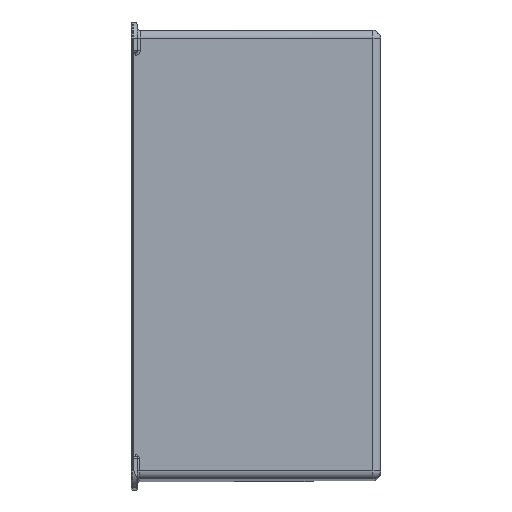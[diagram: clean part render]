
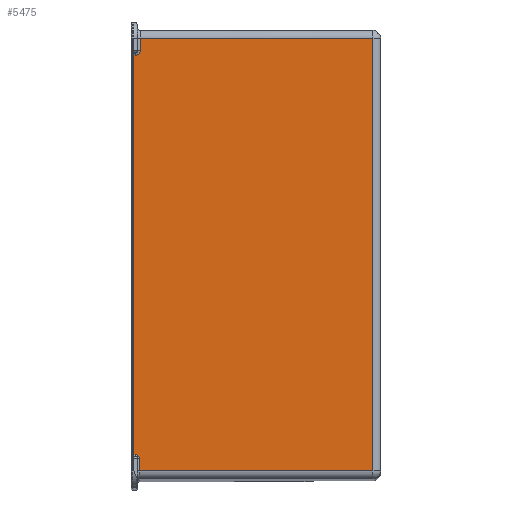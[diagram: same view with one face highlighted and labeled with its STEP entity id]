
A CAD part, top view. The second image highlights one B-rep face of the part: STEP entity #5475.
In plain terms, the highlighted planar face has unit normal (0, 0, 1).
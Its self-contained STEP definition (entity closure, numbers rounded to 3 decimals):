
#73=CARTESIAN_POINT('',(0.32,24.6,-5.));
#74=VERTEX_POINT('',#73);
#84=CARTESIAN_POINT('',(0.5,24.6,-5.));
#85=VERTEX_POINT('',#84);
#86=CARTESIAN_POINT('',(0.32,24.6,-5.));
#87=DIRECTION('',(1.0,0.0,0.0));
#88=VECTOR('',#87,0.18);
#89=LINE('',#86,#88);
#90=EDGE_CURVE('',#74,#85,#89,.T.);
#115=CARTESIAN_POINT('',(1.1,25.2,-5.));
#116=VERTEX_POINT('',#115);
#134=CARTESIAN_POINT('',(0.5,25.2,-5.));
#135=DIRECTION('',(0.0,0.0,1.0));
#136=DIRECTION('',(0.707,-0.707,0.0));
#137=AXIS2_PLACEMENT_3D('',#134,#135,#136);
#138=CIRCLE('',#137,0.6);
#139=EDGE_CURVE('',#85,#116,#138,.T.);
#149=CARTESIAN_POINT('',(1.1,26.7,-5.));
#150=VERTEX_POINT('',#149);
#167=CARTESIAN_POINT('',(1.1,25.2,-5.));
#168=DIRECTION('',(0.0,1.0,0.0));
#169=VECTOR('',#168,1.5);
#170=LINE('',#167,#169);
#171=EDGE_CURVE('',#116,#150,#170,.T.);
#434=CARTESIAN_POINT('',(0.32,-24.7,-5.));
#435=VERTEX_POINT('',#434);
#443=CARTESIAN_POINT('',(0.32,24.6,-5.));
#444=DIRECTION('',(0.0,-1.0,0.0));
#445=VECTOR('',#444,49.3);
#446=LINE('',#443,#445);
#447=EDGE_CURVE('',#74,#435,#446,.T.);
#812=CARTESIAN_POINT('',(1.0,-26.7,-5.));
#813=VERTEX_POINT('',#812);
#846=CARTESIAN_POINT('',(1.0,-25.2,-5.));
#847=VERTEX_POINT('',#846);
#864=CARTESIAN_POINT('',(1.0,-26.7,-5.));
#865=DIRECTION('',(0.0,1.0,0.0));
#866=VECTOR('',#865,1.5);
#867=LINE('',#864,#866);
#868=EDGE_CURVE('',#813,#847,#867,.T.);
#878=CARTESIAN_POINT('',(0.5,-24.7,-5.));
#879=VERTEX_POINT('',#878);
#897=CARTESIAN_POINT('',(0.5,-25.2,-5.));
#898=DIRECTION('',(0.0,0.0,1.0));
#899=DIRECTION('',(0.707,0.707,0.0));
#900=AXIS2_PLACEMENT_3D('',#897,#898,#899);
#901=CIRCLE('',#900,0.5);
#902=EDGE_CURVE('',#847,#879,#901,.T.);
#920=CARTESIAN_POINT('',(0.5,-24.7,-5.));
#921=DIRECTION('',(-1.0,0.0,0.0));
#922=VECTOR('',#921,0.18);
#923=LINE('',#920,#922);
#924=EDGE_CURVE('',#879,#435,#923,.T.);
#5411=CARTESIAN_POINT('',(29.8,-26.7,-5.));
#5412=VERTEX_POINT('',#5411);
#5420=CARTESIAN_POINT('',(29.8,-26.7,-5.));
#5421=DIRECTION('',(-1.0,0.0,0.0));
#5422=VECTOR('',#5421,28.8);
#5423=LINE('',#5420,#5422);
#5424=EDGE_CURVE('',#5412,#813,#5423,.T.);
#5446=CARTESIAN_POINT('',(0.0,24.9,-5.));
#5447=DIRECTION('',(0.0,0.0,1.0));
#5448=DIRECTION('',(1.0,0.0,0.0));
#5449=AXIS2_PLACEMENT_3D('',#5446,#5447,#5448);
#5450=PLANE('',#5449);
#5451=ORIENTED_EDGE('',*,*,#90,.F.);
#5452=ORIENTED_EDGE('',*,*,#447,.T.);
#5453=ORIENTED_EDGE('',*,*,#924,.F.);
#5454=ORIENTED_EDGE('',*,*,#902,.F.);
#5455=ORIENTED_EDGE('',*,*,#868,.F.);
#5456=ORIENTED_EDGE('',*,*,#5424,.F.);
#5457=CARTESIAN_POINT('',(29.8,26.7,-5.));
#5458=VERTEX_POINT('',#5457);
#5459=CARTESIAN_POINT('',(29.8,26.7,-5.));
#5460=DIRECTION('',(0.0,-1.0,0.0));
#5461=VECTOR('',#5460,53.4);
#5462=LINE('',#5459,#5461);
#5463=EDGE_CURVE('',#5458,#5412,#5462,.T.);
#5464=ORIENTED_EDGE('',*,*,#5463,.F.);
#5465=CARTESIAN_POINT('',(1.1,26.7,-5.));
#5466=DIRECTION('',(1.0,0.0,0.0));
#5467=VECTOR('',#5466,28.7);
#5468=LINE('',#5465,#5467);
#5469=EDGE_CURVE('',#150,#5458,#5468,.T.);
#5470=ORIENTED_EDGE('',*,*,#5469,.F.);
#5471=ORIENTED_EDGE('',*,*,#171,.F.);
#5472=ORIENTED_EDGE('',*,*,#139,.F.);
#5473=EDGE_LOOP('',(#5451,#5452,#5453,#5454,#5455,#5456,#5464,#5470,#5471,#5472));
#5474=FACE_OUTER_BOUND('',#5473,.T.);
#5475=ADVANCED_FACE('',(#5474),#5450,.T.);
